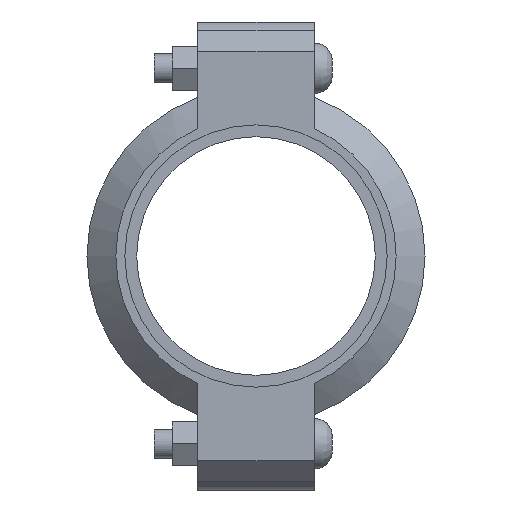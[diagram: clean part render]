
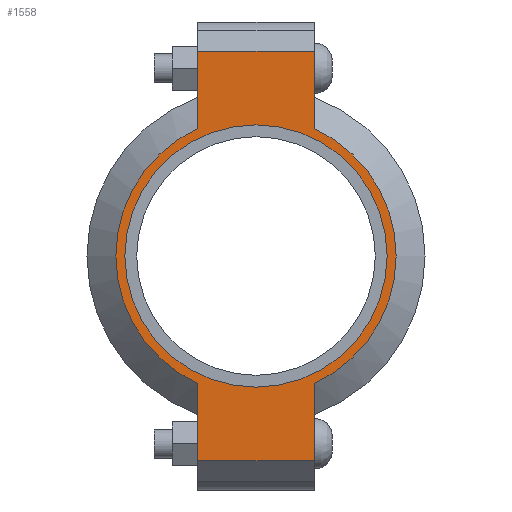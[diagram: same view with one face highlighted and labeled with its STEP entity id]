
A CAD part, left-side view. The second image highlights one B-rep face of the part: STEP entity #1558.
In plain terms, the highlighted planar face has unit normal (-1, 0, 0) as drawn and (0, 0, 1) by its records, which use the part's own axes.
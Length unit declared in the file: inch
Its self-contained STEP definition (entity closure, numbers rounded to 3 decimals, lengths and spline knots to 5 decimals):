
#182=LINE('',#2728,#275);
#190=LINE('',#2764,#283);
#197=LINE('',#2785,#290);
#206=LINE('',#2817,#299);
#207=LINE('',#2821,#300);
#208=LINE('',#2823,#301);
#275=VECTOR('',#2224,0.3937);
#283=VECTOR('',#2240,0.3937);
#290=VECTOR('',#2259,0.3937);
#299=VECTOR('',#2284,0.3937);
#300=VECTOR('',#2289,0.3937);
#301=VECTOR('',#2290,0.3937);
#357=FACE_BOUND('',#535,.T.);
#429=FACE_OUTER_BOUND('',#534,.T.);
#534=EDGE_LOOP('',(#1299,#1300,#1301,#1302,#1303,#1304,#1305,#1306));
#535=EDGE_LOOP('',(#1307));
#607=CIRCLE('',#1786,2.25);
#633=CIRCLE('',#1845,2.405);
#634=CIRCLE('',#1846,2.405);
#699=VERTEX_POINT('',#2544);
#742=VERTEX_POINT('',#2725);
#743=VERTEX_POINT('',#2727);
#754=VERTEX_POINT('',#2759);
#755=VERTEX_POINT('',#2763);
#762=VERTEX_POINT('',#2782);
#763=VERTEX_POINT('',#2784);
#773=VERTEX_POINT('',#2820);
#774=VERTEX_POINT('',#2822);
#855=EDGE_CURVE('',#699,#699,#607,.T.);
#916=EDGE_CURVE('',#743,#742,#182,.T.);
#930=EDGE_CURVE('',#755,#754,#190,.T.);
#940=EDGE_CURVE('',#763,#762,#197,.T.);
#955=EDGE_CURVE('',#755,#742,#206,.T.);
#956=EDGE_CURVE('',#754,#763,#633,.T.);
#957=EDGE_CURVE('',#773,#762,#207,.T.);
#958=EDGE_CURVE('',#773,#774,#208,.T.);
#959=EDGE_CURVE('',#774,#743,#634,.T.);
#1299=ORIENTED_EDGE('',*,*,#955,.F.);
#1300=ORIENTED_EDGE('',*,*,#930,.T.);
#1301=ORIENTED_EDGE('',*,*,#956,.T.);
#1302=ORIENTED_EDGE('',*,*,#940,.T.);
#1303=ORIENTED_EDGE('',*,*,#957,.F.);
#1304=ORIENTED_EDGE('',*,*,#958,.T.);
#1305=ORIENTED_EDGE('',*,*,#959,.T.);
#1306=ORIENTED_EDGE('',*,*,#916,.T.);
#1307=ORIENTED_EDGE('',*,*,#855,.T.);
#1400=PLANE('',#1844);
#1558=ADVANCED_FACE('',(#429,#357),#1400,.T.);
#1786=AXIS2_PLACEMENT_3D('',#2546,#2100,#2101);
#1844=AXIS2_PLACEMENT_3D('',#2818,#2285,#2286);
#1845=AXIS2_PLACEMENT_3D('',#2819,#2287,#2288);
#1846=AXIS2_PLACEMENT_3D('',#2824,#2291,#2292);
#2100=DIRECTION('center_axis',(0.,0.,-1.));
#2101=DIRECTION('ref_axis',(1.,0.,0.));
#2224=DIRECTION('',(1.,0.,0.));
#2240=DIRECTION('',(-1.,0.,0.));
#2259=DIRECTION('',(-1.,0.,0.));
#2284=DIRECTION('',(0.,-1.,0.));
#2285=DIRECTION('center_axis',(0.,0.,1.));
#2286=DIRECTION('ref_axis',(-1.,0.,0.));
#2287=DIRECTION('center_axis',(0.,0.,1.));
#2288=DIRECTION('ref_axis',(1.,0.,0.));
#2289=DIRECTION('',(0.,1.,0.));
#2290=DIRECTION('',(1.,0.,0.));
#2291=DIRECTION('center_axis',(0.,0.,1.));
#2292=DIRECTION('ref_axis',(1.,0.,0.));
#2544=CARTESIAN_POINT('',(-2.25,0.,1.065));
#2546=CARTESIAN_POINT('Origin',(0.,0.,1.065));
#2725=CARTESIAN_POINT('',(3.515,-1.,1.065));
#2727=CARTESIAN_POINT('',(2.18724,-1.,1.065));
#2728=CARTESIAN_POINT('',(4.015,-1.,1.065));
#2759=CARTESIAN_POINT('',(2.18724,1.,1.065));
#2763=CARTESIAN_POINT('',(3.515,1.,1.065));
#2764=CARTESIAN_POINT('',(-4.015,1.,1.065));
#2782=CARTESIAN_POINT('',(-3.515,1.,1.065));
#2784=CARTESIAN_POINT('',(-2.18724,1.,1.065));
#2785=CARTESIAN_POINT('',(-4.015,1.,1.065));
#2817=CARTESIAN_POINT('',(3.515,-0.5,1.065));
#2818=CARTESIAN_POINT('Origin',(0.,0.,
1.065));
#2819=CARTESIAN_POINT('Origin',(0.,0.,1.065));
#2820=CARTESIAN_POINT('',(-3.515,-1.,1.065));
#2821=CARTESIAN_POINT('',(-3.515,0.5,1.065));
#2822=CARTESIAN_POINT('',(-2.18724,-1.,1.065));
#2823=CARTESIAN_POINT('',(4.015,-1.,1.065));
#2824=CARTESIAN_POINT('Origin',(0.,0.,1.065));
